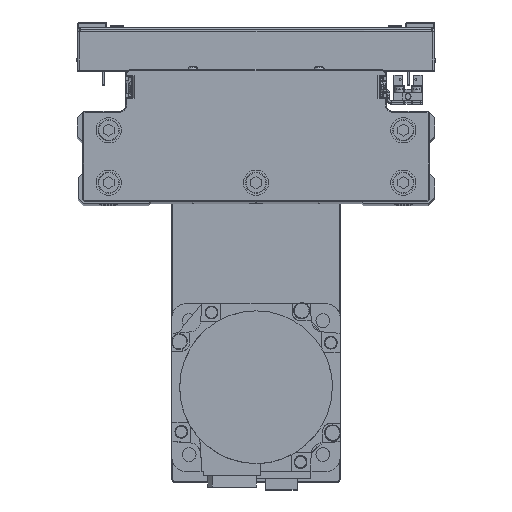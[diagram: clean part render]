
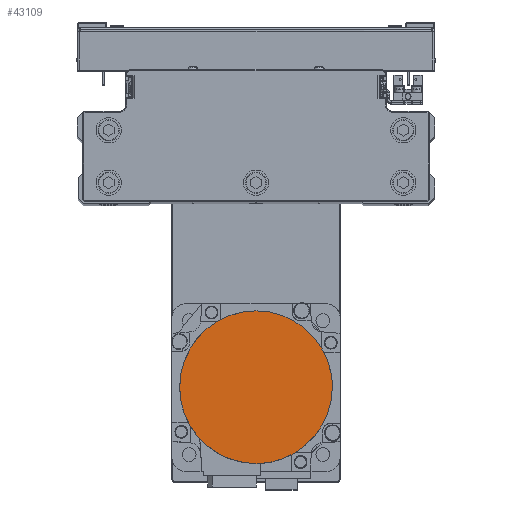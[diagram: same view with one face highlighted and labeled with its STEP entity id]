
A CAD part, top view. The second image highlights one B-rep face of the part: STEP entity #43109.
In plain terms, the highlighted planar face has unit normal (0, 0, 1) as drawn and (0, 0, -1) by its records, which use the part's own axes.
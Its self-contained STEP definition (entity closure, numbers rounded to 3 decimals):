
#255 = CARTESIAN_POINT ( 'NONE',  ( -2.376, -36.3, -122.2 ) ) ;
#649 = EDGE_CURVE ( 'NONE', #9150, #8743, #8140, .T. ) ;
#1456 = AXIS2_PLACEMENT_3D ( 'NONE', #3702, #17346, #30978 ) ;
#2780 = CARTESIAN_POINT ( 'NONE',  ( -32.628, 16.086, -122.2 ) ) ;
#2787 = CARTESIAN_POINT ( 'NONE',  ( -36.3, 0., -122.2 ) ) ;
#3594 = CARTESIAN_POINT ( 'NONE',  ( -11.696, -34.446, -122.2 ) ) ;
#3702 = CARTESIAN_POINT ( 'NONE',  ( 0., 0., -122.2 ) ) ;
#5365 = VERTEX_POINT ( 'NONE', #23838 ) ;
#5429 = DIRECTION ( 'NONE',  ( 1., 0., 0. ) ) ;
#6143 = CARTESIAN_POINT ( 'NONE',  ( -27.348, 23.988, -122.2 ) ) ;
#6954 = CARTESIAN_POINT ( 'NONE',  ( -22.143, -28.862, -122.2 ) ) ;
#8019 = VERTEX_POINT ( 'NONE', #37707 ) ;
#8140 = B_SPLINE_CURVE_WITH_KNOTS ( 'NONE', 3,
 ( #16205, #29836, #43489, #12849, #26481, #40132, #9501, #23139, #36762, #6143, #19795, #33398, #2780, #16425, #30059, #43718, #13077, #26707 ),
 .UNSPECIFIED., .F., .F.,
 ( 4, 2, 2, 2, 2, 2, 2, 2, 4 ),
 ( 0., 0.125, 0.25, 0.375, 0.5, 0.625, 0.75, 0.875, 1. ),
 .UNSPECIFIED. ) ;
#8743 = VERTEX_POINT ( 'NONE', #31102 ) ;
#8777 = PLANE ( 'NONE',  #28678 ) ;
#9150 = VERTEX_POINT ( 'NONE', #20779 ) ;
#9249 = AXIS2_PLACEMENT_3D ( 'NONE', #42061, #11429, #25062 ) ;
#9501 = CARTESIAN_POINT ( 'NONE',  ( -18.192, 31.502, -122.2 ) ) ;
#9721 = CARTESIAN_POINT ( 'NONE',  ( -28.862, -22.143, -122.2 ) ) ;
#11429 = DIRECTION ( 'NONE',  ( 0., 0., 1. ) ) ;
#12849 = CARTESIAN_POINT ( 'NONE',  ( -9.412, 35.139, -122.2 ) ) ;
#13077 = CARTESIAN_POINT ( 'NONE',  ( -36.3, 2.376, -122.2 ) ) ;
#13086 = CARTESIAN_POINT ( 'NONE',  ( -34.446, -11.696, -122.2 ) ) ;
#13243 = EDGE_CURVE ( 'NONE', #8019, #5365, #28506, .T. ) ;
#13894 = CARTESIAN_POINT ( 'NONE',  ( 0., -36.3, -122.2 ) ) ;
#16205 = CARTESIAN_POINT ( 'NONE',  ( 0., 36.3, -122.2 ) ) ;
#16425 = CARTESIAN_POINT ( 'NONE',  ( -34.446, 11.696, -122.2 ) ) ;
#16433 = CARTESIAN_POINT ( 'NONE',  ( -36.3, -2.376, -122.2 ) ) ;
#16791 = ORIENTED_EDGE ( 'NONE', *, *, #13243, .F. ) ;
#17236 = CARTESIAN_POINT ( 'NONE',  ( -9.412, -35.139, -122.2 ) ) ;
#17346 = DIRECTION ( 'NONE',  ( 0., 0., 1. ) ) ;
#19795 = CARTESIAN_POINT ( 'NONE',  ( -28.862, 22.143, -122.2 ) ) ;
#20601 = CARTESIAN_POINT ( 'NONE',  ( -18.192, -31.502, -122.2 ) ) ;
#20726 = CIRCLE ( 'NONE', #1456, 36.3 ) ;
#20779 = CARTESIAN_POINT ( 'NONE',  ( 0., 36.3, -122.2 ) ) ;
#22421 = CARTESIAN_POINT ( 'NONE',  ( 0., 0., -122.2 ) ) ;
#23139 = CARTESIAN_POINT ( 'NONE',  ( -22.143, 28.862, -122.2 ) ) ;
#23838 = CARTESIAN_POINT ( 'NONE',  ( 36.3, 0., -122.2 ) ) ;
#23948 = CARTESIAN_POINT ( 'NONE',  ( -27.348, -23.988, -122.2 ) ) ;
#24021 = EDGE_LOOP ( 'NONE', ( #16791, #37266, #42945, #27694 ) ) ;
#24546 = B_SPLINE_CURVE_WITH_KNOTS ( 'NONE', 3,
 ( #2787, #16433, #30067, #43725, #13086, #26715, #40360, #9721, #23948, #37585, #6954, #20601, #34217, #3594, #17236, #30871, #255, #13894 ),
 .UNSPECIFIED., .F., .F.,
 ( 4, 2, 2, 2, 2, 2, 2, 2, 4 ),
 ( 0., 0.125, 0.25, 0.375, 0.5, 0.625, 0.75, 0.875, 1. ),
 .UNSPECIFIED. ) ;
#25062 = DIRECTION ( 'NONE',  ( -1., 0., 0. ) ) ;
#26481 = CARTESIAN_POINT ( 'NONE',  ( -11.696, 34.446, -122.2 ) ) ;
#26707 = CARTESIAN_POINT ( 'NONE',  ( -36.3, 0., -122.2 ) ) ;
#26715 = CARTESIAN_POINT ( 'NONE',  ( -32.628, -16.086, -122.2 ) ) ;
#27694 = ORIENTED_EDGE ( 'NONE', *, *, #41851, .F. ) ;
#28506 = CIRCLE ( 'NONE', #9249, 36.3 ) ;
#28678 = AXIS2_PLACEMENT_3D ( 'NONE', #22421, #36050, #5429 ) ;
#29836 = CARTESIAN_POINT ( 'NONE',  ( -2.376, 36.3, -122.2 ) ) ;
#30059 = CARTESIAN_POINT ( 'NONE',  ( -35.139, 9.412, -122.2 ) ) ;
#30067 = CARTESIAN_POINT ( 'NONE',  ( -36.066, -4.752, -122.2 ) ) ;
#30871 = CARTESIAN_POINT ( 'NONE',  ( -4.752, -36.066, -122.2 ) ) ;
#30978 = DIRECTION ( 'NONE',  ( -1., 0., 0. ) ) ;
#31102 = CARTESIAN_POINT ( 'NONE',  ( -36.3, 0., -122.2 ) ) ;
#33398 = CARTESIAN_POINT ( 'NONE',  ( -31.502, 18.192, -122.2 ) ) ;
#34217 = CARTESIAN_POINT ( 'NONE',  ( -16.086, -32.628, -122.2 ) ) ;
#36050 = DIRECTION ( 'NONE',  ( 0., 0., 1. ) ) ;
#36762 = CARTESIAN_POINT ( 'NONE',  ( -23.988, 27.348, -122.2 ) ) ;
#37266 = ORIENTED_EDGE ( 'NONE', *, *, #42168, .F. ) ;
#37585 = CARTESIAN_POINT ( 'NONE',  ( -23.988, -27.348, -122.2 ) ) ;
#37707 = CARTESIAN_POINT ( 'NONE',  ( 0., -36.3, -122.2 ) ) ;
#39416 = FACE_OUTER_BOUND ( 'NONE', #24021, .T. ) ;
#40132 = CARTESIAN_POINT ( 'NONE',  ( -16.086, 32.628, -122.2 ) ) ;
#40360 = CARTESIAN_POINT ( 'NONE',  ( -31.502, -18.192, -122.2 ) ) ;
#41851 = EDGE_CURVE ( 'NONE', #5365, #9150, #20726, .T. ) ;
#42061 = CARTESIAN_POINT ( 'NONE',  ( 0., 0., -122.2 ) ) ;
#42168 = EDGE_CURVE ( 'NONE', #8743, #8019, #24546, .T. ) ;
#42945 = ORIENTED_EDGE ( 'NONE', *, *, #649, .F. ) ;
#43109 = ADVANCED_FACE ( 'NONE', ( #39416 ), #8777, .F. ) ;
#43489 = CARTESIAN_POINT ( 'NONE',  ( -4.752, 36.066, -122.2 ) ) ;
#43718 = CARTESIAN_POINT ( 'NONE',  ( -36.066, 4.752, -122.2 ) ) ;
#43725 = CARTESIAN_POINT ( 'NONE',  ( -35.139, -9.412, -122.2 ) ) ;
